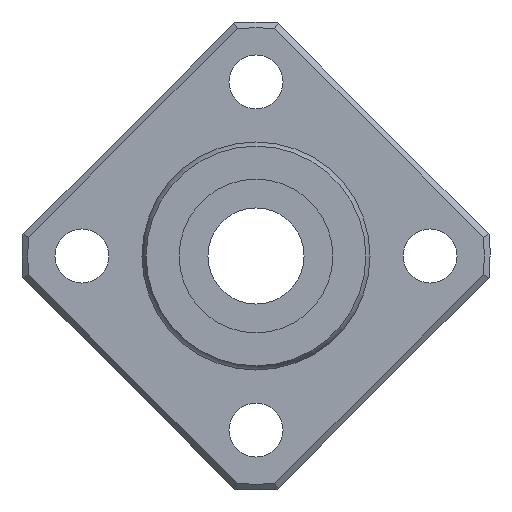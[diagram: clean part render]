
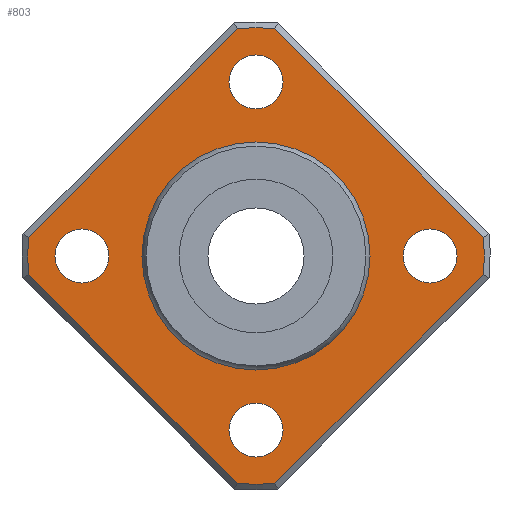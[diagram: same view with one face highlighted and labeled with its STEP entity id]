
A CAD part, left-side view. The second image highlights one B-rep face of the part: STEP entity #803.
In plain terms, the highlighted planar face has unit normal (-1, 0, 0).
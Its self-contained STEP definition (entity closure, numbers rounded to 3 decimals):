
#490=CARTESIAN_POINT('',(6.,-1.571,-18.935));
#491=VERTEX_POINT('',#490);
#499=CARTESIAN_POINT('',(6.,1.571,-18.935));
#500=VERTEX_POINT('',#499);
#501=CARTESIAN_POINT('',(6.,0.0,0.0));
#502=DIRECTION('',(1.0,0.0,0.0));
#503=DIRECTION('',(0.0,0.0,-1.0));
#504=AXIS2_PLACEMENT_3D('',#501,#502,#503);
#505=CIRCLE('',#504,19.0);
#506=EDGE_CURVE('',#491,#500,#505,.T.);
#525=CARTESIAN_POINT('',(6.,18.935,-1.571));
#526=VERTEX_POINT('',#525);
#527=CARTESIAN_POINT('',(6.,1.571,-18.935));
#528=DIRECTION('',(0.0,0.707,0.707));
#529=VECTOR('',#528,24.556);
#530=LINE('',#527,#529);
#531=EDGE_CURVE('',#500,#526,#530,.T.);
#558=CARTESIAN_POINT('',(6.,18.935,1.571));
#559=VERTEX_POINT('',#558);
#560=CARTESIAN_POINT('',(6.,0.0,0.0));
#561=DIRECTION('',(1.0,0.0,0.0));
#562=DIRECTION('',(0.0,0.0,1.0));
#563=AXIS2_PLACEMENT_3D('',#560,#561,#562);
#564=CIRCLE('',#563,19.0);
#565=EDGE_CURVE('',#526,#559,#564,.T.);
#591=CARTESIAN_POINT('',(6.,1.571,18.935));
#592=VERTEX_POINT('',#591);
#593=CARTESIAN_POINT('',(6.,18.935,1.571));
#594=DIRECTION('',(0.0,-0.707,0.707));
#595=VECTOR('',#594,24.556);
#596=LINE('',#593,#595);
#597=EDGE_CURVE('',#559,#592,#596,.T.);
#624=CARTESIAN_POINT('',(6.,-1.571,18.935));
#625=VERTEX_POINT('',#624);
#626=CARTESIAN_POINT('',(6.,0.0,0.0));
#627=DIRECTION('',(1.0,0.0,0.0));
#628=DIRECTION('',(0.0,0.0,1.0));
#629=AXIS2_PLACEMENT_3D('',#626,#627,#628);
#630=CIRCLE('',#629,19.0);
#631=EDGE_CURVE('',#592,#625,#630,.T.);
#655=CARTESIAN_POINT('',(6.,-18.935,1.571));
#656=VERTEX_POINT('',#655);
#657=CARTESIAN_POINT('',(6.,-1.571,18.935));
#658=DIRECTION('',(0.0,-0.707,-0.707));
#659=VECTOR('',#658,24.556);
#660=LINE('',#657,#659);
#661=EDGE_CURVE('',#625,#656,#660,.T.);
#680=CARTESIAN_POINT('',(6.,-18.935,-1.571));
#681=VERTEX_POINT('',#680);
#682=CARTESIAN_POINT('',(6.,0.0,0.0));
#683=DIRECTION('',(1.0,0.0,0.0));
#684=DIRECTION('',(0.0,0.0,1.0));
#685=AXIS2_PLACEMENT_3D('',#682,#683,#684);
#686=CIRCLE('',#685,19.0);
#687=EDGE_CURVE('',#656,#681,#686,.T.);
#706=CARTESIAN_POINT('',(6.,-18.935,-1.571));
#707=DIRECTION('',(0.0,0.707,-0.707));
#708=VECTOR('',#707,24.556);
#709=LINE('',#706,#708);
#710=EDGE_CURVE('',#681,#491,#709,.T.);
#733=CARTESIAN_POINT('',(6.,0.0,14.393));
#734=DIRECTION('',(-1.0,0.0,0.0));
#735=DIRECTION('',(0.0,0.0,1.0));
#736=AXIS2_PLACEMENT_3D('',#733,#734,#735);
#737=PLANE('',#736);
#738=ORIENTED_EDGE('',*,*,#506,.F.);
#739=ORIENTED_EDGE('',*,*,#710,.F.);
#740=ORIENTED_EDGE('',*,*,#687,.F.);
#741=ORIENTED_EDGE('',*,*,#661,.F.);
#742=ORIENTED_EDGE('',*,*,#631,.F.);
#743=ORIENTED_EDGE('',*,*,#597,.F.);
#744=ORIENTED_EDGE('',*,*,#565,.F.);
#745=ORIENTED_EDGE('',*,*,#531,.F.);
#746=EDGE_LOOP('',(#738,#739,#740,#741,#742,#743,#744,#745));
#747=FACE_OUTER_BOUND('',#746,.T.);
#748=CARTESIAN_POINT('',(6.,0.0,9.286));
#749=VERTEX_POINT('',#748);
#750=CARTESIAN_POINT('',(6.,0.0,0.0));
#751=DIRECTION('',(-1.0,0.0,0.0));
#752=DIRECTION('',(0.0,0.0,1.0));
#753=AXIS2_PLACEMENT_3D('',#750,#751,#752);
#754=CIRCLE('',#753,9.286);
#755=EDGE_CURVE('',#749,#749,#754,.T.);
#756=ORIENTED_EDGE('',*,*,#755,.F.);
#757=EDGE_LOOP('',(#756));
#758=FACE_BOUND('',#757,.T.);
#759=CARTESIAN_POINT('',(6.,12.25,0.));
#760=VERTEX_POINT('',#759);
#761=CARTESIAN_POINT('',(6.,14.5,0.));
#762=DIRECTION('',(1.0,0.0,0.0));
#763=DIRECTION('',(0.0,1.0,0.0));
#764=AXIS2_PLACEMENT_3D('',#761,#762,#763);
#765=CIRCLE('',#764,2.25);
#766=EDGE_CURVE('',#760,#760,#765,.T.);
#767=ORIENTED_EDGE('',*,*,#766,.T.);
#768=EDGE_LOOP('',(#767));
#769=FACE_BOUND('',#768,.T.);
#770=CARTESIAN_POINT('',(6.,-16.75,0.));
#771=VERTEX_POINT('',#770);
#772=CARTESIAN_POINT('',(6.,-14.5,0.));
#773=DIRECTION('',(1.0,0.0,0.0));
#774=DIRECTION('',(0.0,1.0,0.0));
#775=AXIS2_PLACEMENT_3D('',#772,#773,#774);
#776=CIRCLE('',#775,2.25);
#777=EDGE_CURVE('',#771,#771,#776,.T.);
#778=ORIENTED_EDGE('',*,*,#777,.T.);
#779=EDGE_LOOP('',(#778));
#780=FACE_BOUND('',#779,.T.);
#781=CARTESIAN_POINT('',(6.,-2.25,14.5));
#782=VERTEX_POINT('',#781);
#783=CARTESIAN_POINT('',(6.,0.,14.5));
#784=DIRECTION('',(1.0,0.0,0.0));
#785=DIRECTION('',(0.0,1.0,0.0));
#786=AXIS2_PLACEMENT_3D('',#783,#784,#785);
#787=CIRCLE('',#786,2.25);
#788=EDGE_CURVE('',#782,#782,#787,.T.);
#789=ORIENTED_EDGE('',*,*,#788,.T.);
#790=EDGE_LOOP('',(#789));
#791=FACE_BOUND('',#790,.T.);
#792=CARTESIAN_POINT('',(6.,-2.25,-14.5));
#793=VERTEX_POINT('',#792);
#794=CARTESIAN_POINT('',(6.,0.,-14.5));
#795=DIRECTION('',(1.0,0.0,0.0));
#796=DIRECTION('',(0.0,1.0,0.0));
#797=AXIS2_PLACEMENT_3D('',#794,#795,#796);
#798=CIRCLE('',#797,2.25);
#799=EDGE_CURVE('',#793,#793,#798,.T.);
#800=ORIENTED_EDGE('',*,*,#799,.T.);
#801=EDGE_LOOP('',(#800));
#802=FACE_BOUND('',#801,.T.);
#803=ADVANCED_FACE('',(#747,#758,#769,#780,#791,#802),#737,.T.);
